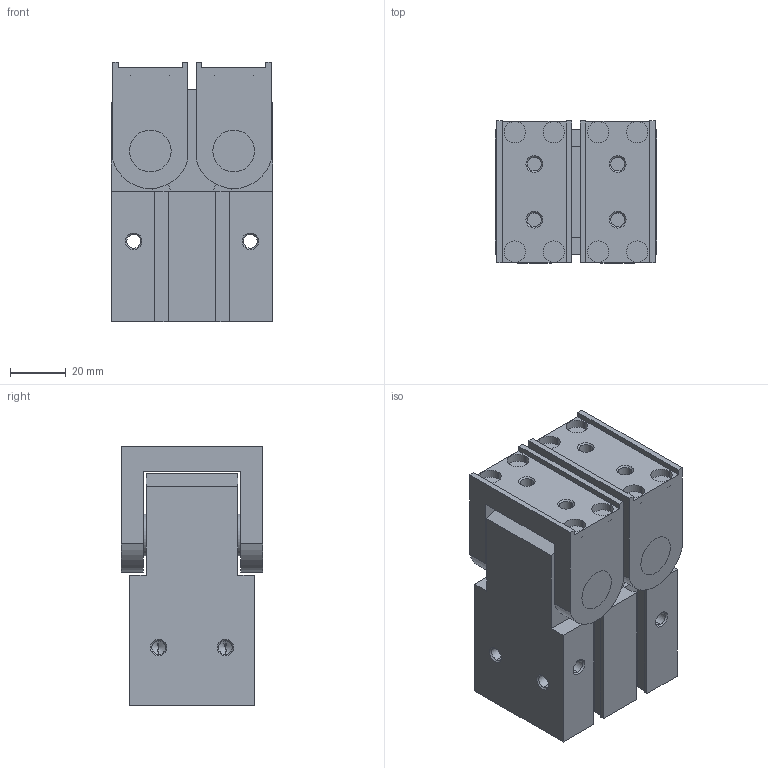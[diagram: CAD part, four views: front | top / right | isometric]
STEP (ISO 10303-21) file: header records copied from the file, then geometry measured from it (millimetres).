
FILE_DESCRIPTION (( 'STEP AP203' ), '1' );
FILE_NAME ('CHW2-32D.STEP', '2020-04-03T10:15:23', ( '' ), ( '' ), 'SwSTEP 2.0', 'SolidWorks 2019', '' );
FILE_SCHEMA (( 'CONFIG_CONTROL_DESIGN' ));
Length unit declared in the file: millimetre
Products named in the file (1): CHW2-32D
Bounding box: 58 x 51 x 93.5 mm (x, y, z)
Volume: 225108.3 mm3; surface area: 46996.8 mm2
Topology: 3 solids, 3 shells, 217 faces, 534 edges, 334 vertices
Faces by surface type: plane 89, cylinder 80, cone 48
Entity records: 6429 total; most frequent: DIRECTION 1154, CARTESIAN_POINT 1074, ORIENTED_EDGE 1044, EDGE_CURVE 522, AXIS2_PLACEMENT_3D 414, VERTEX_POINT 334, VECTOR 326, LINE 326
